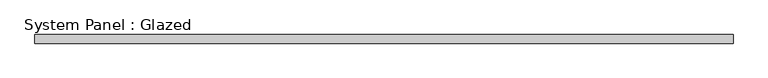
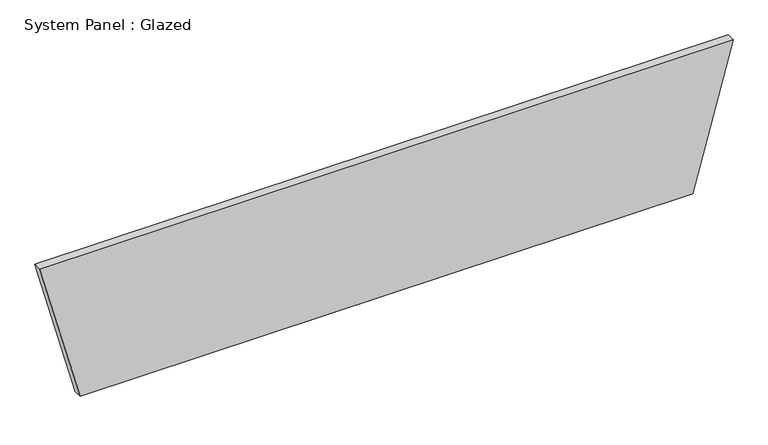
"""IFC4 building model written with IfcOpenShell, lengths in millimetres: plate geometry, System Panel : Glazed."""

from ifc_helpers import new_model, si_unit, frame, origin, place, context, project, spatial, polyline, outline, extrude, source, transform, mapped, element, save


def system_panel_glazed_024423c3(model_context):
    return source(origin(), model_context, "Body", "SweptSolid", [
        extrude(outline(polyline([(0.0, -909.2980402), (0.0, 909.2980402), (441.1288699, 1029.5224985), (441.1288699, -1029.5224985), (0.0, -909.2980402)])), frame((0.0, -44.45, 0.0), z_axis=(0.0, 1.0, 0.0), x_axis=(0.0, 0.0, 1.0)), (0.0, 0.0, 1.0), 25.4),
    ])


if __name__ == "__main__":
    model = new_model("IFC4")
    model_context = context("Model", 3, world=origin())
    ifc_project = project(units=[si_unit("LENGTHUNIT", "METRE", prefix="MILLI")], contexts=[model_context])
    site = spatial("IfcSite", under=ifc_project)
    building = spatial("IfcBuilding", under=site)
    placement = place(None, origin())
    system_panel_glazed_shape = system_panel_glazed_024423c3(model_context)
    element("IfcPlate", 1, ObjectType="System Panel : Glazed", at=placement, inside=building, context=model_context, shape_type="MappedRepresentation", body=[
        mapped(system_panel_glazed_shape, transform((0.0, 0.0, 0.0), x_axis=(1.0, 0.0, 0.0), y_axis=(0.0, 1.0, 0.0), z_axis=(0.0, 0.0, 1.0))),
    ])
    save(model, "model.ifc")
